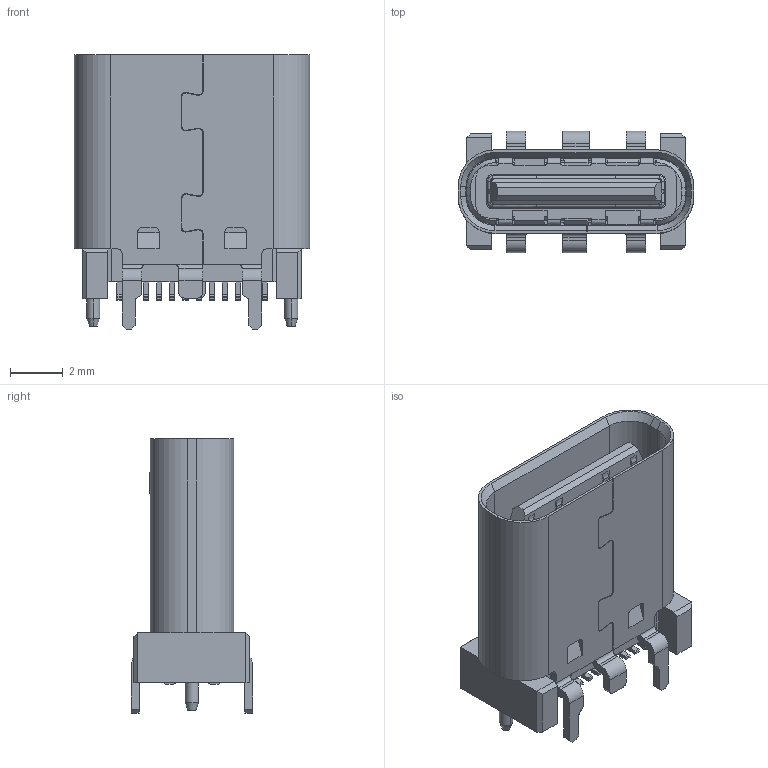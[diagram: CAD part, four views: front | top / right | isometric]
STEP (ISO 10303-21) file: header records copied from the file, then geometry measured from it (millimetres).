
FILE_DESCRIPTION (( 'STEP AP203' ), '1' );
FILE_NAME ('U5156-24PN9.3L.stp', '2026-09-21T07:39:12', ( '' ), ( '' ), 'SwSTEP 2.0', 'SolidWorks 2020', '' );
FILE_SCHEMA (( 'CONFIG_CONTROL_DESIGN' ));
Length unit declared in the file: millimetre
Products named in the file (29): ____-____-49765^DRW0001_7_ASM_P0001_ASM_ASM_48_ASM_ASM_24PIN____3D_ASM_U5156-24PN9.3L(2)_U5156-24PN9.3L; ____-____2-14659^DRW0001_7_ASM_P0001_ASM_ASM_48_ASM_ASM_24PIN____3D_ASM_U5156-24PN9.3L(2)_U5156-24PN9.3L; 6_5HMD0002_30_1_1_17^6_5HMD0002_30_ASM_1_ASM_2_ASM_ASM_6_5HMD0001_ASM_35_ASM_1_ASM_1_A_ASM_6_5H16P0001_ASM_30_ASM_1_ASM_1__ASM_P0001_ASM_ASM_48_ASM_ASM_24PIN____3D_ASM_U5156-24PN9.3L(2)_U5156-~; U5156-24PN9.3L; 6_400_9_1_11^6_40001_ASM_13_ASM_1_ASM_3_ASM_ASM_6_5HMD0003_ASM_27_ASM_1_ASM_2_A_ASM_6_5HMD0001_ASM_35_ASM_1_ASM_1_A_ASM_6_5H16P0001_ASM_30_ASM_1_ASM_1__ASM_P0001_ASM_ASM_48_ASM_ASM_24PIN____3D~; 6_5H16P0001_ASM_30_ASM_1_ASM_1__ASM^P0001_ASM_ASM_48_ASM_ASM_24PIN____3D_ASM_U5156-24PN9.3L(2)_U5156-24PN9.3L; ____-____-32809^DRW0001_7_ASM_P0001_ASM_ASM_48_ASM_ASM_24PIN____3D_ASM_U5156-24PN9.3L(2)_U5156-24PN9.3L; P0001_ASM_ASM_48_ASM_ASM^24PIN____3D_ASM_U5156-24PN9.3L(2)_U5156-24PN9.3L; 6_5HMD0003_ASM_27_ASM_1_ASM_2_A_ASM^6_5HMD0001_ASM_35_ASM_1_ASM_1_A_ASM_6_5H16P0001_ASM_30_ASM_1_ASM_1__ASM_P0001_ASM_ASM_48_ASM_ASM_24PIN____3D_ASM_U5156-24PN9.3L(2)_U5156-24PN9.3L; ____-____-5016^DRW0001_7_ASM_P0001_ASM_ASM_48_ASM_ASM_24PIN____3D_ASM_U5156-24PN9.3L(2)_U5156-24PN9.3L; 6_5HMD0001_ASM_35_ASM_1_ASM_1_A_ASM^6_5H16P0001_ASM_30_ASM_1_ASM_1__ASM_P0001_ASM_ASM_48_ASM_ASM_24PIN____3D_ASM_U5156-24PN9.3L(2)_U5156-24PN9.3L; ____-____-59333^DRW0001_7_ASM_P0001_ASM_ASM_48_ASM_ASM_24PIN____3D_ASM_U5156-24PN9.3L(2)_U5156-24PN9.3L; 00008_3^P0001_ASM_ASM_48_ASM_ASM_24PIN____3D_ASM_U5156-24PN9.3L(2)_U5156-24PN9.3L; ____-____-47917^DRW0001_7_ASM_P0001_ASM_ASM_48_ASM_ASM_24PIN____3D_ASM_U5156-24PN9.3L(2)_U5156-24PN9.3L; PRT0004_16^P0001_ASM_ASM_48_ASM_ASM_24PIN____3D_ASM_U5156-24PN9.3L(2)_U5156-24PN9.3L; U5156-24PN9.3L(2)^U5156-24PN9.3L; ____-____2-15741^DRW0001_7_ASM_P0001_ASM_ASM_48_ASM_ASM_24PIN____3D_ASM_U5156-24PN9.3L(2)_U5156-24PN9.3L; DRW0001_7_ASM^P0001_ASM_ASM_48_ASM_ASM_24PIN____3D_ASM_U5156-24PN9.3L(2)_U5156-24PN9.3L; WAIKE_1^P0001_ASM_ASM_48_ASM_ASM_24PIN____3D_ASM_U5156-24PN9.3L(2)_U5156-24PN9.3L; ____-____2-23582^DRW0001_7_ASM_P0001_ASM_ASM_48_ASM_ASM_24PIN____3D_ASM_U5156-24PN9.3L(2)_U5156-24PN9.3L; 6_5HMD0002_30_ASM_1_ASM_2_ASM_ASM^6_5HMD0001_ASM_35_ASM_1_ASM_1_A_ASM_6_5H16P0001_ASM_30_ASM_1_ASM_1__ASM_P0001_ASM_ASM_48_ASM_ASM_24PIN____3D_ASM_U5156-24PN9.3L(2)_U5156-24PN9.3L; ____-____-29115^DRW0001_7_ASM_P0001_ASM_ASM_48_ASM_ASM_24PIN____3D_ASM_U5156-24PN9.3L(2)_U5156-24PN9.3L; EM_1^P0001_ASM_ASM_48_ASM_ASM_24PIN____3D_ASM_U5156-24PN9.3L(2)_U5156-24PN9.3L; ____-____-588^DRW0001_7_ASM_P0001_ASM_ASM_48_ASM_ASM_24PIN____3D_ASM_U5156-24PN9.3L(2)_U5156-24PN9.3L; ____-____-54195^DRW0001_7_ASM_P0001_ASM_ASM_48_ASM_ASM_24PIN____3D_ASM_U5156-24PN9.3L(2)_U5156-24PN9.3L; 6_40001_ASM_13_ASM_1_ASM_3_ASM_ASM^6_5HMD0003_ASM_27_ASM_1_ASM_2_A_ASM_6_5HMD0001_ASM_35_ASM_1_ASM_1_A_ASM_6_5H16P0001_ASM_30_ASM_1_ASM_1__ASM_P0001_ASM_ASM_48_ASM_ASM_24PIN____3D_ASM_U5156-24~; ____-____-43489^DRW0001_7_ASM_P0001_ASM_ASM_48_ASM_ASM_24PIN____3D_ASM_U5156-24PN9.3L(2)_U5156-24PN9.3L; 24PIN____3D_ASM^U5156-24PN9.3L(2)_U5156-24PN9.3L
Assembly tree (40 placements, depth 9):
  U5156-24PN9.3L
    U5156-24PN9.3L(2)^U5156-24PN9.3L
      24PIN____3D_ASM^U5156-24PN9.3L(2)_U5156-24PN9.3L
        P0001_ASM_ASM_48_ASM_ASM^24PIN____3D_ASM_U5156-24PN9.3L(2)_U5156-24PN9.3L
          DRW0001_7_ASM^P0001_ASM_ASM_48_ASM_ASM_24PIN____3D_ASM_U5156-24PN9.3L(2)_U5156-24PN9.3L
            ____-____-588^DRW0001_7_ASM_P0001_ASM_ASM_48_ASM_ASM_24PIN____3D_ASM_U5156-24PN9.3L(2)_U5156-24PN9.3L
            ____-____-5016^DRW0001_7_ASM_P0001_ASM_ASM_48_ASM_ASM_24PIN____3D_ASM_U5156-24PN9.3L(2)_U5156-24PN9.3L
            ____-____2-14659^DRW0001_7_ASM_P0001_ASM_ASM_48_ASM_ASM_24PIN____3D_ASM_U5156-24PN9.3L(2)_U5156-24PN9.3L
            ____-____2-15741^DRW0001_7_ASM_P0001_ASM_ASM_48_ASM_ASM_24PIN____3D_ASM_U5156-24PN9.3L(2)_U5156-24PN9.3L
            ____-____2-23582^DRW0001_7_ASM_P0001_ASM_ASM_48_ASM_ASM_24PIN____3D_ASM_U5156-24PN9.3L(2)_U5156-24PN9.3L
            ____-____-29115^DRW0001_7_ASM_P0001_ASM_ASM_48_ASM_ASM_24PIN____3D_ASM_U5156-24PN9.3L(2)_U5156-24PN9.3L
            ____-____-32809^DRW0001_7_ASM_P0001_ASM_ASM_48_ASM_ASM_24PIN____3D_ASM_U5156-24PN9.3L(2)_U5156-24PN9.3L
            ____-____-43489^DRW0001_7_ASM_P0001_ASM_ASM_48_ASM_ASM_24PIN____3D_ASM_U5156-24PN9.3L(2)_U5156-24PN9.3L
            ____-____-47917^DRW0001_7_ASM_P0001_ASM_ASM_48_ASM_ASM_24PIN____3D_ASM_U5156-24PN9.3L(2)_U5156-24PN9.3L
            ____-____-49765^DRW0001_7_ASM_P0001_ASM_ASM_48_ASM_ASM_24PIN____3D_ASM_U5156-24PN9.3L(2)_U5156-24PN9.3L
            ____-____-54195^DRW0001_7_ASM_P0001_ASM_ASM_48_ASM_ASM_24PIN____3D_ASM_U5156-24PN9.3L(2)_U5156-24PN9.3L
            ____-____-59333^DRW0001_7_ASM_P0001_ASM_ASM_48_ASM_ASM_24PIN____3D_ASM_U5156-24PN9.3L(2)_U5156-24PN9.3L
          6_5H16P0001_ASM_30_ASM_1_ASM_1__ASM^P0001_ASM_ASM_48_ASM_ASM_24PIN____3D_ASM_U5156-24PN9.3L(2)_U5156-24PN9.3L
            6_5HMD0001_ASM_35_ASM_1_ASM_1_A_ASM^6_5H16P0001_ASM_30_ASM_1_ASM_1__ASM_P0001_ASM_ASM_48_ASM_ASM_24PIN____3D_ASM_U5156-24PN9.3L(2)_U5156-24PN9.3L
              6_5HMD0002_30_ASM_1_ASM_2_ASM_ASM^6_5HMD0001_ASM_35_ASM_1_ASM_1_A_ASM_6_5H16P0001_ASM_30_ASM_1_ASM_1__ASM_P0001_ASM_ASM_48_ASM_ASM_24PIN____3D_ASM_U5156-24PN9.3L(2)_U5156-24PN9.3L
                6_5HMD0002_30_1_1_17^6_5HMD0002_30_ASM_1_ASM_2_ASM_ASM_6_5HMD0001_ASM_35_ASM_1_ASM_1_A_ASM_6_5H16P0001_ASM_30_ASM_1_ASM_1__ASM_P0001_ASM_ASM_48_ASM_ASM_24PIN____3D_ASM_U5156-24PN9.3L(2)_U5156-~
              6_5HMD0003_ASM_27_ASM_1_ASM_2_A_ASM^6_5HMD0001_ASM_35_ASM_1_ASM_1_A_ASM_6_5H16P0001_ASM_30_ASM_1_ASM_1__ASM_P0001_ASM_ASM_48_ASM_ASM_24PIN____3D_ASM_U5156-24PN9.3L(2)_U5156-24PN9.3L
                6_40001_ASM_13_ASM_1_ASM_3_ASM_ASM^6_5HMD0003_ASM_27_ASM_1_ASM_2_A_ASM_6_5HMD0001_ASM_35_ASM_1_ASM_1_A_ASM_6_5H16P0001_ASM_30_ASM_1_ASM_1__ASM_P0001_ASM_ASM_48_ASM_ASM_24PIN____3D_ASM_U5156-24~
                  6_400_9_1_11^6_40001_ASM_13_ASM_1_ASM_3_ASM_ASM_6_5HMD0003_ASM_27_ASM_1_ASM_2_A_ASM_6_5HMD0001_ASM_35_ASM_1_ASM_1_A_ASM_6_5H16P0001_ASM_30_ASM_1_ASM_1__ASM_P0001_ASM_ASM_48_ASM_ASM_24PIN____3D~
          DRW0001_7_ASM^P0001_ASM_ASM_48_ASM_ASM_24PIN____3D_ASM_U5156-24PN9.3L(2)_U5156-24PN9.3L
            ____-____-588^DRW0001_7_ASM_P0001_ASM_ASM_48_ASM_ASM_24PIN____3D_ASM_U5156-24PN9.3L(2)_U5156-24PN9.3L
            ____-____-5016^DRW0001_7_ASM_P0001_ASM_ASM_48_ASM_ASM_24PIN____3D_ASM_U5156-24PN9.3L(2)_U5156-24PN9.3L
            ____-____2-14659^DRW0001_7_ASM_P0001_ASM_ASM_48_ASM_ASM_24PIN____3D_ASM_U5156-24PN9.3L(2)_U5156-24PN9.3L
            ____-____2-15741^DRW0001_7_ASM_P0001_ASM_ASM_48_ASM_ASM_24PIN____3D_ASM_U5156-24PN9.3L(2)_U5156-24PN9.3L
            ____-____2-23582^DRW0001_7_ASM_P0001_ASM_ASM_48_ASM_ASM_24PIN____3D_ASM_U5156-24PN9.3L(2)_U5156-24PN9.3L
            ____-____-29115^DRW0001_7_ASM_P0001_ASM_ASM_48_ASM_ASM_24PIN____3D_ASM_U5156-24PN9.3L(2)_U5156-24PN9.3L
            ____-____-32809^DRW0001_7_ASM_P0001_ASM_ASM_48_ASM_ASM_24PIN____3D_ASM_U5156-24PN9.3L(2)_U5156-24PN9.3L
            ____-____-43489^DRW0001_7_ASM_P0001_ASM_ASM_48_ASM_ASM_24PIN____3D_ASM_U5156-24PN9.3L(2)_U5156-24PN9.3L
            ____-____-47917^DRW0001_7_ASM_P0001_ASM_ASM_48_ASM_ASM_24PIN____3D_ASM_U5156-24PN9.3L(2)_U5156-24PN9.3L
            ____-____-49765^DRW0001_7_ASM_P0001_ASM_ASM_48_ASM_ASM_24PIN____3D_ASM_U5156-24PN9.3L(2)_U5156-24PN9.3L
            ____-____-54195^DRW0001_7_ASM_P0001_ASM_ASM_48_ASM_ASM_24PIN____3D_ASM_U5156-24PN9.3L(2)_U5156-24PN9.3L
            ____-____-59333^DRW0001_7_ASM_P0001_ASM_ASM_48_ASM_ASM_24PIN____3D_ASM_U5156-24PN9.3L(2)_U5156-24PN9.3L
          00008_3^P0001_ASM_ASM_48_ASM_ASM_24PIN____3D_ASM_U5156-24PN9.3L(2)_U5156-24PN9.3L
          WAIKE_1^P0001_ASM_ASM_48_ASM_ASM_24PIN____3D_ASM_U5156-24PN9.3L(2)_U5156-24PN9.3L
          PRT0004_16^P0001_ASM_ASM_48_ASM_ASM_24PIN____3D_ASM_U5156-24PN9.3L(2)_U5156-24PN9.3L
          EM_1^P0001_ASM_ASM_48_ASM_ASM_24PIN____3D_ASM_U5156-24PN9.3L(2)_U5156-24PN9.3L
Bounding box: 8.94 x 4.6 x 10.4 mm (x, y, z)
Volume: 204.8 mm3; surface area: 1152.4 mm2
Topology: 30 solids, 30 shells, 2328 faces, 6770 edges, 4479 vertices
Faces by surface type: plane 1696, cylinder 571, cone 25, bspline 24, torus 12
Entity records: 65653 total; most frequent: CARTESIAN_POINT 13276, ORIENTED_EDGE 10660, DIRECTION 9589, EDGE_CURVE 5330, VECTOR 4219, LINE 4219, VERTEX_POINT 3519, AXIS2_PLACEMENT_3D 2685
